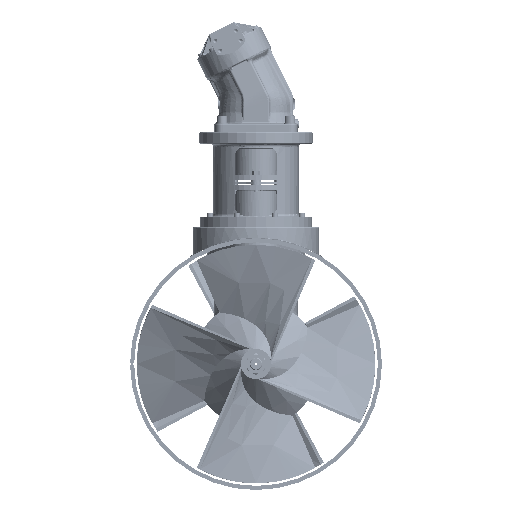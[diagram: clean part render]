
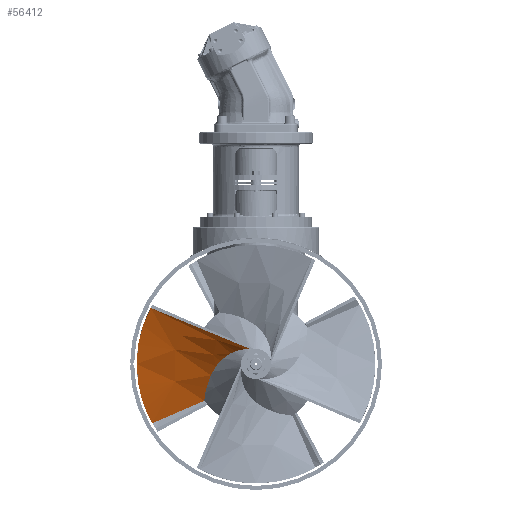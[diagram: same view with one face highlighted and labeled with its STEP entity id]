
A CAD part, left-side view. The second image highlights one B-rep face of the part: STEP entity #56412.
In plain terms, the highlighted free-form (B-spline) face has degree [3, 3] with [4, 4] control points.
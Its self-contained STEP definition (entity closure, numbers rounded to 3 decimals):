
#866=B_SPLINE_SURFACE_WITH_KNOTS('',3,3,((#128190,#128191,#128192,#128193),
(#128194,#128195,#128196,#128197),(#128198,#128199,#128200,#128201),(#128202,
#128203,#128204,#128205)),.UNSPECIFIED.,.F.,.F.,.F.,(4,4),(4,4),(0.,1.),
(0.037,1.),.UNSPECIFIED.);
#9205=FACE_OUTER_BOUND('',#12509,.T.);
#12509=EDGE_LOOP('',(#44908,#44909,#44910,#44911,#44912));
#15368=LINE('',#128186,#17793);
#15370=LINE('',#128207,#17795);
#17793=VECTOR('',#75320,377.09);
#17795=VECTOR('',#75324,379.849);
#19582=B_SPLINE_CURVE_WITH_KNOTS('',3,(#128168,#128169,#128170,#128171,
#128172,#128173),.UNSPECIFIED.,.F.,.F.,(4,2,4),(-19.469,-7.554,
0.),.UNSPECIFIED.);
#19583=B_SPLINE_CURVE_WITH_KNOTS('',3,(#128175,#128176,#128177,#128178,
#128179,#128180,#128181,#128182),.UNSPECIFIED.,.F.,.F.,(4,2,2,4),(-37.796,
-30.453,-22.198,-19.469),.UNSPECIFIED.);
#19584=B_SPLINE_CURVE_WITH_KNOTS('',3,(#128208,#128209,#128210,#128211,
#128212,#128213,#128214,#128215,#128216,#128217,#128218,#128219),
 .UNSPECIFIED.,.F.,.F.,(4,2,2,2,2,4),(-21.88,-16.134,
-10.562,-5.983,-2.845,0.),.UNSPECIFIED.);
#23530=VERTEX_POINT('',#128165);
#23531=VERTEX_POINT('',#128167);
#23532=VERTEX_POINT('',#128174);
#23533=VERTEX_POINT('',#128185);
#23535=VERTEX_POINT('',#128206);
#31013=EDGE_CURVE('',#23531,#23530,#19582,.T.);
#31014=EDGE_CURVE('',#23532,#23531,#19583,.T.);
#31016=EDGE_CURVE('',#23533,#23532,#15368,.T.);
#31019=EDGE_CURVE('',#23535,#23530,#15370,.T.);
#31020=EDGE_CURVE('',#23535,#23533,#19584,.T.);
#44908=ORIENTED_EDGE('',*,*,#31014,.T.);
#44909=ORIENTED_EDGE('',*,*,#31013,.T.);
#44910=ORIENTED_EDGE('',*,*,#31019,.F.);
#44911=ORIENTED_EDGE('',*,*,#31020,.T.);
#44912=ORIENTED_EDGE('',*,*,#31016,.T.);
#56412=ADVANCED_FACE('',(#9205),#866,.F.);
#75320=DIRECTION('',(0.,0.924,0.382));
#75324=DIRECTION('',(0.,0.917,-0.398));
#128165=CARTESIAN_POINT('',(-214.875,304.25,-171.189));
#128167=CARTESIAN_POINT('',(-285.003,350.105,1.605));
#128168=CARTESIAN_POINT('Ctrl Pts',(-285.003,350.105,
1.605));
#128169=CARTESIAN_POINT('Ctrl Pts',(-271.475,350.105,
-35.564));
#128170=CARTESIAN_POINT('Ctrl Pts',(-258.078,344.154,-72.435));
#128171=CARTESIAN_POINT('Ctrl Pts',(-234.48,325.205,
-129.87));
#128172=CARTESIAN_POINT('Ctrl Pts',(-225.017,315.678,-151.174));
#128173=CARTESIAN_POINT('Ctrl Pts',(-214.875,304.25,
-171.189));
#128174=CARTESIAN_POINT('',(-350.875,309.089,165.634));
#128175=CARTESIAN_POINT('Ctrl Pts',(-350.875,309.089,
165.634));
#128176=CARTESIAN_POINT('Ctrl Pts',(-341.162,319.669,
145.801));
#128177=CARTESIAN_POINT('Ctrl Pts',(-332.053,328.399,
124.81));
#128178=CARTESIAN_POINT('Ctrl Pts',(-313.276,342.51,78.384));
#128179=CARTESIAN_POINT('Ctrl Pts',(-303.781,347.268,
52.968));
#128180=CARTESIAN_POINT('Ctrl Pts',(-291.206,349.793,
18.645));
#128181=CARTESIAN_POINT('Ctrl Pts',(-288.102,350.105,
10.117));
#128182=CARTESIAN_POINT('Ctrl Pts',(-285.003,350.105,
1.605));
#128185=CARTESIAN_POINT('',(-350.875,14.449,43.863));
#128186=CARTESIAN_POINT('',(-350.875,1.605,38.555));
#128190=CARTESIAN_POINT('Ctrl Pts',(-350.875,14.449,43.863));
#128191=CARTESIAN_POINT('Ctrl Pts',(-350.875,126.334,
90.104));
#128192=CARTESIAN_POINT('Ctrl Pts',(-350.875,238.219,
136.345));
#128193=CARTESIAN_POINT('Ctrl Pts',(-350.875,350.105,
182.585));
#128194=CARTESIAN_POINT('Ctrl Pts',(-305.542,14.449,
14.064));
#128195=CARTESIAN_POINT('Ctrl Pts',(-305.542,126.334,
28.721));
#128196=CARTESIAN_POINT('Ctrl Pts',(-305.542,238.219,
43.377));
#128197=CARTESIAN_POINT('Ctrl Pts',(-305.542,350.105,
58.033));
#128198=CARTESIAN_POINT('Ctrl Pts',(-260.208,14.449,
-15.735));
#128199=CARTESIAN_POINT('Ctrl Pts',(-260.208,126.334,
-32.663));
#128200=CARTESIAN_POINT('Ctrl Pts',(-260.208,238.219,
-49.591));
#128201=CARTESIAN_POINT('Ctrl Pts',(-260.208,350.105,
-66.519));
#128202=CARTESIAN_POINT('Ctrl Pts',(-214.875,14.449,-45.534));
#128203=CARTESIAN_POINT('Ctrl Pts',(-214.875,126.334,
-94.046));
#128204=CARTESIAN_POINT('Ctrl Pts',(-214.875,238.219,
-142.559));
#128205=CARTESIAN_POINT('Ctrl Pts',(-214.875,350.105,
-191.072));
#128206=CARTESIAN_POINT('',(-214.875,152.519,-105.4));
#128207=CARTESIAN_POINT('',(-214.875,1.605,-39.965));
#128208=CARTESIAN_POINT('Ctrl Pts',(-214.875,152.519,
-105.4));
#128209=CARTESIAN_POINT('Ctrl Pts',(-227.57,150.637,
-85.324));
#128210=CARTESIAN_POINT('Ctrl Pts',(-239.896,146.792,
-65.324));
#128211=CARTESIAN_POINT('Ctrl Pts',(-264.117,133.25,
-27.753));
#128212=CARTESIAN_POINT('Ctrl Pts',(-275.827,123.825,
-10.432));
#128213=CARTESIAN_POINT('Ctrl Pts',(-297.571,100.63,
16.476));
#128214=CARTESIAN_POINT('Ctrl Pts',(-307.348,88.155,26.604));
#128215=CARTESIAN_POINT('Ctrl Pts',(-323.829,64.117,
38.656));
#128216=CARTESIAN_POINT('Ctrl Pts',(-330.489,53.593,
42.1));
#128217=CARTESIAN_POINT('Ctrl Pts',(-342.435,32.637,
45.229));
#128218=CARTESIAN_POINT('Ctrl Pts',(-347.292,23.141,
45.1));
#128219=CARTESIAN_POINT('Ctrl Pts',(-350.875,14.449,43.863));
